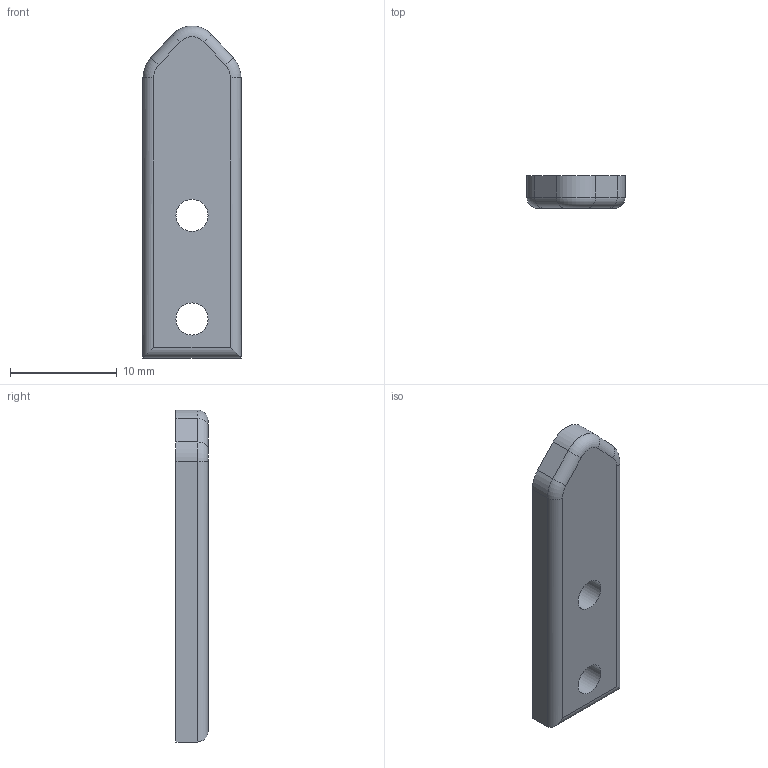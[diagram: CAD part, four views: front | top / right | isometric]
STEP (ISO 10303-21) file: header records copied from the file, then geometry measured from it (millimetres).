
FILE_DESCRIPTION(/* description */ (''),/* implementation_level */ '2;1');
FILE_NAME(/* name */ 'D:/Pew Pews/FGC-9_MkII_Stingray_Edition/Stingray Edition/.step files/3 - Buffer Tube and Stock/Buffer Tube/TPU Push Button.step',/* time_stamp */ '2022-05-12T09:49:08-06:00',/* author */ (''),/* organization */ (''),/* preprocessor_version */ 'ST-DEVELOPER v18.1',/* originating_system */ 'Autodesk Translation Framework v10.10.0.1391',/* authorisation */ '');
FILE_SCHEMA (('AUTOMOTIVE_DESIGN { 1 0 10303 214 3 1 1 }'));
Length unit declared in the file: millimetre
Products named in the file (1): TPU Stock button
Bounding box: 9.18 x 3 x 31.06 mm (x, y, z)
Volume: 755.5 mm3; surface area: 765.1 mm2
Topology: 1 solids, 1 shells, 20 faces, 46 edges, 28 vertices
Faces by surface type: cylinder 10, plane 7, torus 3
Full cylindrical faces by diameter (mm): 3 x2
Entity records: 608 total; most frequent: DIRECTION 109, CARTESIAN_POINT 95, ORIENTED_EDGE 92, EDGE_CURVE 46, AXIS2_PLACEMENT_3D 42, VERTEX_POINT 28, LINE 25, VECTOR 25
